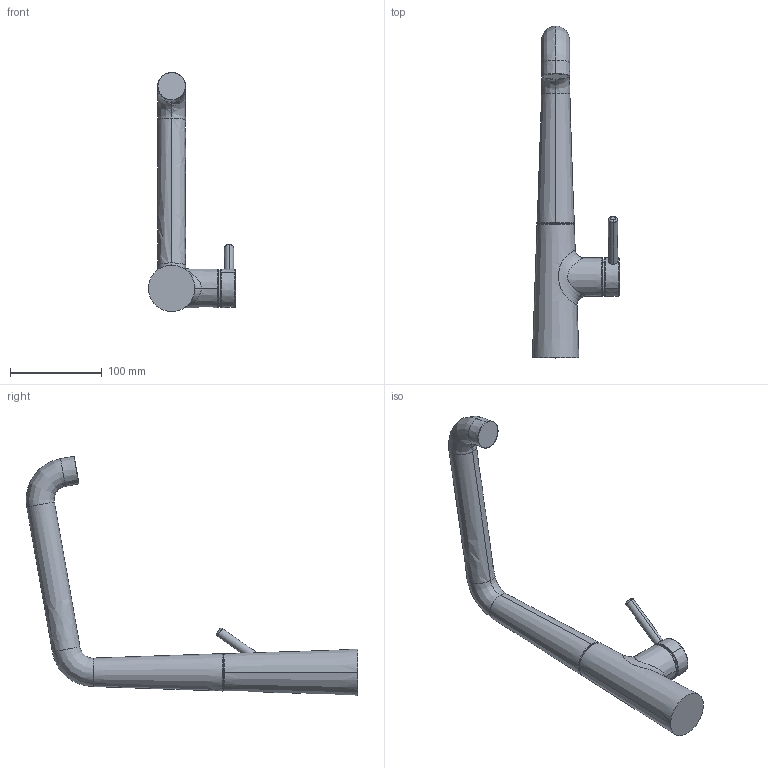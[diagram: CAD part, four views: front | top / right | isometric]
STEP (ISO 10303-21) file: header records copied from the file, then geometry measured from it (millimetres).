
FILE_DESCRIPTION((''),'2;1');
FILE_NAME('10481012','2020-04-22T16:46:38',('BD984'),(''),'CREO PARAMETRIC BY PTC INC, 2018500','CREO PARAMETRIC BY PTC INC, 2018500','');
FILE_SCHEMA(('CONFIG_CONTROL_DESIGN'));
Length unit declared in the file: millimetre
Products named in the file (1): 10481012
Bounding box: 94.95 x 360.86 x 260.32 mm (x, y, z)
Volume: 652539.3 mm3; surface area: 73980.5 mm2
Topology: 1 solids, 1 shells, 72 faces, 154 edges, 86 vertices
Faces by surface type: torus 22, bspline 14, cylinder 12, cone 10, plane 8, sphere 6
Entity records: 5249 total; most frequent: CARTESIAN_POINT 3721, DIRECTION 324, ORIENTED_EDGE 300, EDGE_CURVE 150, AXIS2_PLACEMENT_3D 148, CIRCLE 90, VERTEX_POINT 86, EDGE_LOOP 78
